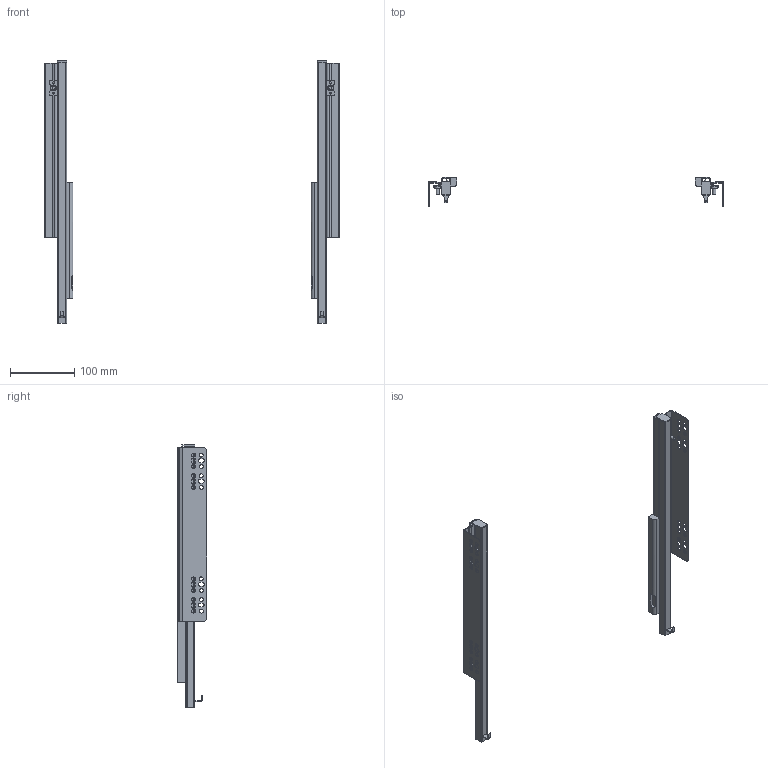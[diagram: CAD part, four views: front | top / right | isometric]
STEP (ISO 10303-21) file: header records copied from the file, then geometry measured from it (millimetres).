
FILE_DESCRIPTION(/* description */ ('Akc'),/* implementation_level */ '2;1');
FILE_NAME(/* name */ 'C:\Users\dmitruk\Documents\WORK\НАПРАВЛЯЮЩИЕ\Скрытого монтажа\Q-Type\Q-Type насадной (16 мм)\Q-Type насадной (16 мм)-400.stp',/* time_stamp */ '2022-04-25T09:43:05+03:00',/* author */ ('dmitruk'),/* organization */ (''),/* preprocessor_version */ 'ST-DEVELOPER v16.5',/* originating_system */ 'Autodesk Inventor 2017',/* authorisation */ '');
FILE_SCHEMA (('AUTOMOTIVE_DESIGN { 1 0 10303 214 3 1 1 }'));
Length unit declared in the file: millimetre
Products named in the file (5): Q-Type насадной (16 \X2\043C
043C\X0\); Q-Type насадной \X2\043E
0441043D043E04320430043D04380435\X0\ L (16 мм); Q-Type насадной \X2\0432
044B04340432043804360435043D04380435\X0\ L; Q-Type насадной \X2\043E
0441043D043E04320430043D04380435\X0\ P (16 мм); Q-Type насадной \X2\0432
044B04340432043804360435043D04380435\X0\ P
Assembly tree (4 placements, depth 2):
  Q-Type насадной (16 \X2\043C
043C\X0\)
    Q-Type насадной \X2\043E
0441043D043E04320430043D04380435\X0\ L (16 мм)
    Q-Type насадной \X2\0432
044B04340432043804360435043D04380435\X0\ L
    Q-Type насадной \X2\043E
0441043D043E04320430043D04380435\X0\ P (16 мм)
    Q-Type насадной \X2\0432
044B04340432043804360435043D04380435\X0\ P
Bounding box: 457.29 x 45 x 407 mm (x, y, z)
Volume: 175066.6 mm3; surface area: 221899.4 mm2
Topology: 8 solids, 8 shells, 354 faces, 966 edges, 636 vertices
Faces by surface type: plane 212, cylinder 138, bspline 4
Full cylindrical faces by diameter (mm): 3 x4, 5 x2, 6 x32, 9 x2
Entity records: 11825 total; most frequent: CARTESIAN_POINT 2089, DIRECTION 1912, ORIENTED_EDGE 1848, EDGE_CURVE 924, AXIS2_PLACEMENT_3D 641, VERTEX_POINT 634, LINE 630, VECTOR 630
